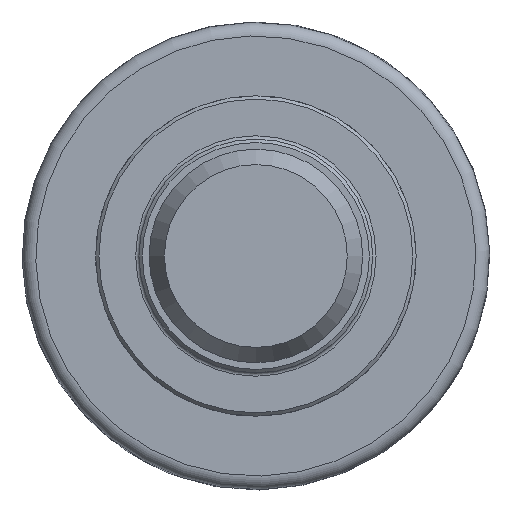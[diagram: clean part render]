
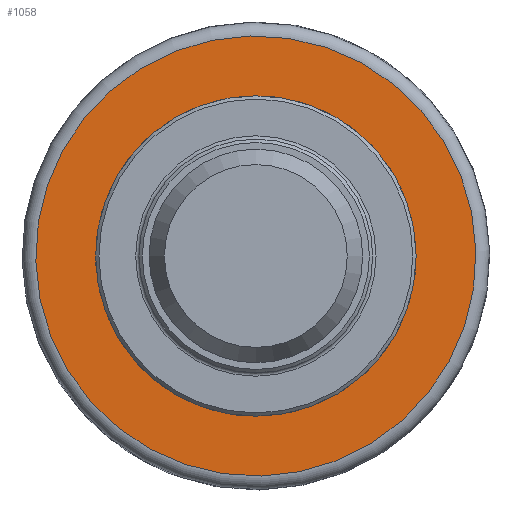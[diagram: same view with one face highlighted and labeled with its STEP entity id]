
A CAD part, left-side view. The second image highlights one B-rep face of the part: STEP entity #1058.
In plain terms, the highlighted planar face has unit normal (-1, 0, 0).
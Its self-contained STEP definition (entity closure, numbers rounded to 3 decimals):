
#1027=CARTESIAN_POINT('',(18.65,-23.335,5.609));
#1028=VERTEX_POINT('',#1027);
#1029=CARTESIAN_POINT('',(18.65,0.,0.));
#1030=DIRECTION('',(1.0,0.,0.));
#1031=DIRECTION('',(0.,0.972,-0.234));
#1032=AXIS2_PLACEMENT_3D('',#1029,#1030,#1031);
#1033=CIRCLE('',#1032,24.);
#1034=EDGE_CURVE('',#1028,#1028,#1033,.T.);
#1039=CARTESIAN_POINT('',(18.65,30.449,-6.123));
#1040=DIRECTION('',(-1.0,0.0,0.0));
#1041=DIRECTION('',(0.0,0.197,0.98));
#1042=AXIS2_PLACEMENT_3D('',#1039,#1040,#1041);
#1043=PLANE('',#1042);
#1044=CARTESIAN_POINT('',(18.65,32.312,-6.498));
#1045=VERTEX_POINT('',#1044);
#1046=CARTESIAN_POINT('',(18.65,0.,0.));
#1047=DIRECTION('',(1.0,0.,0.));
#1048=DIRECTION('',(0.,-0.98,0.197));
#1049=AXIS2_PLACEMENT_3D('',#1046,#1047,#1048);
#1050=CIRCLE('',#1049,32.959);
#1051=EDGE_CURVE('',#1045,#1045,#1050,.T.);
#1052=ORIENTED_EDGE('',*,*,#1051,.F.);
#1053=EDGE_LOOP('',(#1052));
#1054=FACE_OUTER_BOUND('',#1053,.T.);
#1055=ORIENTED_EDGE('',*,*,#1034,.T.);
#1056=EDGE_LOOP('',(#1055));
#1057=FACE_BOUND('',#1056,.T.);
#1058=ADVANCED_FACE('',(#1054,#1057),#1043,.T.);
